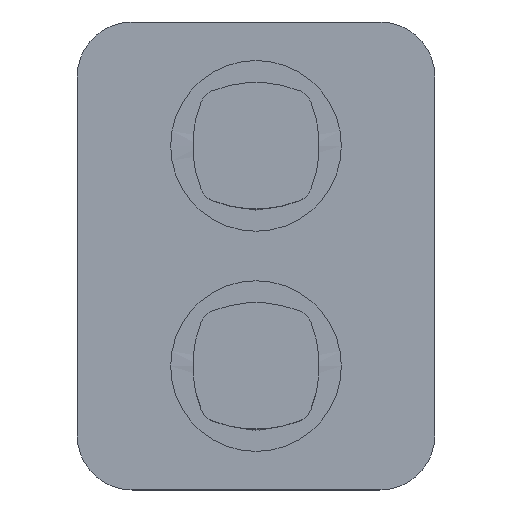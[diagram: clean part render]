
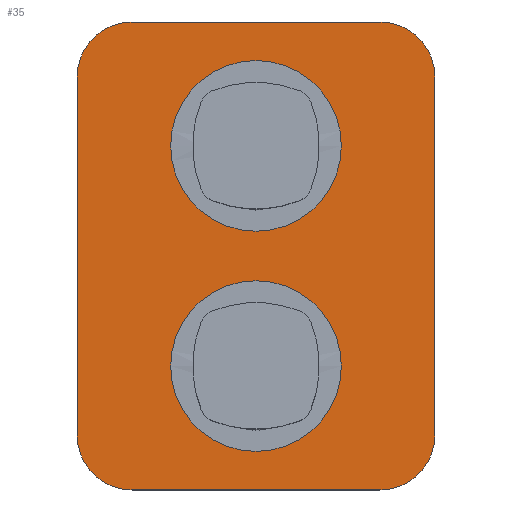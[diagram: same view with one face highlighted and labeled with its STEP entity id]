
A CAD part, top view. The second image highlights one B-rep face of the part: STEP entity #35.
In plain terms, the highlighted planar face has unit normal (0, 0, 1).
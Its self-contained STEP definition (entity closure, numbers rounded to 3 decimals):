
#35 = ADVANCED_FACE('',(#36,#106,#126),#146,.T.);
#36 = FACE_BOUND('',#37,.T.);
#37 = EDGE_LOOP('',(#38,#48,#57,#65,#74,#82,#91,#99));
#38 = ORIENTED_EDGE('',*,*,#39,.T.);
#39 = EDGE_CURVE('',#40,#42,#44,.T.);
#40 = VERTEX_POINT('',#41);
#41 = CARTESIAN_POINT('',(45.,85.,2.
    ));
#42 = VERTEX_POINT('',#43);
#43 = CARTESIAN_POINT('',(-45.,85.,2.
    ));
#44 = LINE('',#45,#46);
#45 = CARTESIAN_POINT('',(45.,85.,2.
    ));
#46 = VECTOR('',#47,1.);
#47 = DIRECTION('',(-1.,0.,0.));
#48 = ORIENTED_EDGE('',*,*,#49,.T.);
#49 = EDGE_CURVE('',#42,#50,#52,.T.);
#50 = VERTEX_POINT('',#51);
#51 = CARTESIAN_POINT('',(-65.,65.,2.
    ));
#52 = CIRCLE('',#53,20.);
#53 = AXIS2_PLACEMENT_3D('',#54,#55,#56);
#54 = CARTESIAN_POINT('',(-45.,65.,2.
    ));
#55 = DIRECTION('',(0.,0.,1.));
#56 = DIRECTION('',(1.,0.,-0.));
#57 = ORIENTED_EDGE('',*,*,#58,.T.);
#58 = EDGE_CURVE('',#50,#59,#61,.T.);
#59 = VERTEX_POINT('',#60);
#60 = CARTESIAN_POINT('',(-65.,-65.,2.));
#61 = LINE('',#62,#63);
#62 = CARTESIAN_POINT('',(-65.,65.,2.
    ));
#63 = VECTOR('',#64,1.);
#64 = DIRECTION('',(0.,-1.,0.));
#65 = ORIENTED_EDGE('',*,*,#66,.T.);
#66 = EDGE_CURVE('',#59,#67,#69,.T.);
#67 = VERTEX_POINT('',#68);
#68 = CARTESIAN_POINT('',(-45.,-85.,2.));
#69 = CIRCLE('',#70,20.);
#70 = AXIS2_PLACEMENT_3D('',#71,#72,#73);
#71 = CARTESIAN_POINT('',(-45.,-65.,2.));
#72 = DIRECTION('',(0.,0.,1.));
#73 = DIRECTION('',(1.,0.,-0.));
#74 = ORIENTED_EDGE('',*,*,#75,.T.);
#75 = EDGE_CURVE('',#67,#76,#78,.T.);
#76 = VERTEX_POINT('',#77);
#77 = CARTESIAN_POINT('',(45.,-85.,2.));
#78 = LINE('',#79,#80);
#79 = CARTESIAN_POINT('',(-45.,-85.,2.));
#80 = VECTOR('',#81,1.);
#81 = DIRECTION('',(1.,0.,0.));
#82 = ORIENTED_EDGE('',*,*,#83,.T.);
#83 = EDGE_CURVE('',#76,#84,#86,.T.);
#84 = VERTEX_POINT('',#85);
#85 = CARTESIAN_POINT('',(65.,-65.,2.));
#86 = CIRCLE('',#87,20.);
#87 = AXIS2_PLACEMENT_3D('',#88,#89,#90);
#88 = CARTESIAN_POINT('',(45.,-65.,2.));
#89 = DIRECTION('',(0.,0.,1.));
#90 = DIRECTION('',(1.,0.,-0.));
#91 = ORIENTED_EDGE('',*,*,#92,.T.);
#92 = EDGE_CURVE('',#84,#93,#95,.T.);
#93 = VERTEX_POINT('',#94);
#94 = CARTESIAN_POINT('',(65.,65.,2.
    ));
#95 = LINE('',#96,#97);
#96 = CARTESIAN_POINT('',(65.,-65.,2.));
#97 = VECTOR('',#98,1.);
#98 = DIRECTION('',(0.,1.,0.));
#99 = ORIENTED_EDGE('',*,*,#100,.T.);
#100 = EDGE_CURVE('',#93,#40,#101,.T.);
#101 = CIRCLE('',#102,20.);
#102 = AXIS2_PLACEMENT_3D('',#103,#104,#105);
#103 = CARTESIAN_POINT('',(45.,65.,
    2.));
#104 = DIRECTION('',(0.,0.,1.));
#105 = DIRECTION('',(1.,0.,-0.));
#106 = FACE_BOUND('',#107,.T.);
#107 = EDGE_LOOP('',(#108,#119));
#108 = ORIENTED_EDGE('',*,*,#109,.T.);
#109 = EDGE_CURVE('',#110,#112,#114,.T.);
#110 = VERTEX_POINT('',#111);
#111 = CARTESIAN_POINT('',(31.,40.,
    2.));
#112 = VERTEX_POINT('',#113);
#113 = CARTESIAN_POINT('',(-31.,40.,
    2.));
#114 = CIRCLE('',#115,31.);
#115 = AXIS2_PLACEMENT_3D('',#116,#117,#118);
#116 = CARTESIAN_POINT('',(0.,40.,
    2.));
#117 = DIRECTION('',(0.,0.,-1.));
#118 = DIRECTION('',(1.,0.,0.));
#119 = ORIENTED_EDGE('',*,*,#120,.T.);
#120 = EDGE_CURVE('',#112,#110,#121,.T.);
#121 = CIRCLE('',#122,31.);
#122 = AXIS2_PLACEMENT_3D('',#123,#124,#125);
#123 = CARTESIAN_POINT('',(0.,40.,
    2.));
#124 = DIRECTION('',(0.,0.,-1.));
#125 = DIRECTION('',(1.,0.,0.));
#126 = FACE_BOUND('',#127,.T.);
#127 = EDGE_LOOP('',(#128,#139));
#128 = ORIENTED_EDGE('',*,*,#129,.T.);
#129 = EDGE_CURVE('',#130,#132,#134,.T.);
#130 = VERTEX_POINT('',#131);
#131 = CARTESIAN_POINT('',(31.,-40.,2.));
#132 = VERTEX_POINT('',#133);
#133 = CARTESIAN_POINT('',(-31.,-40.,2.));
#134 = CIRCLE('',#135,31.);
#135 = AXIS2_PLACEMENT_3D('',#136,#137,#138);
#136 = CARTESIAN_POINT('',(0.,-40.,2.));
#137 = DIRECTION('',(0.,0.,-1.));
#138 = DIRECTION('',(1.,0.,0.));
#139 = ORIENTED_EDGE('',*,*,#140,.T.);
#140 = EDGE_CURVE('',#132,#130,#141,.T.);
#141 = CIRCLE('',#142,31.);
#142 = AXIS2_PLACEMENT_3D('',#143,#144,#145);
#143 = CARTESIAN_POINT('',(0.,-40.,2.));
#144 = DIRECTION('',(0.,0.,-1.));
#145 = DIRECTION('',(1.,0.,0.));
#146 = PLANE('',#147);
#147 = AXIS2_PLACEMENT_3D('',#148,#149,#150);
#148 = CARTESIAN_POINT('',(-45.,85.,
    2.));
#149 = DIRECTION('',(0.,0.,1.));
#150 = DIRECTION('',(-1.,0.,0.));
